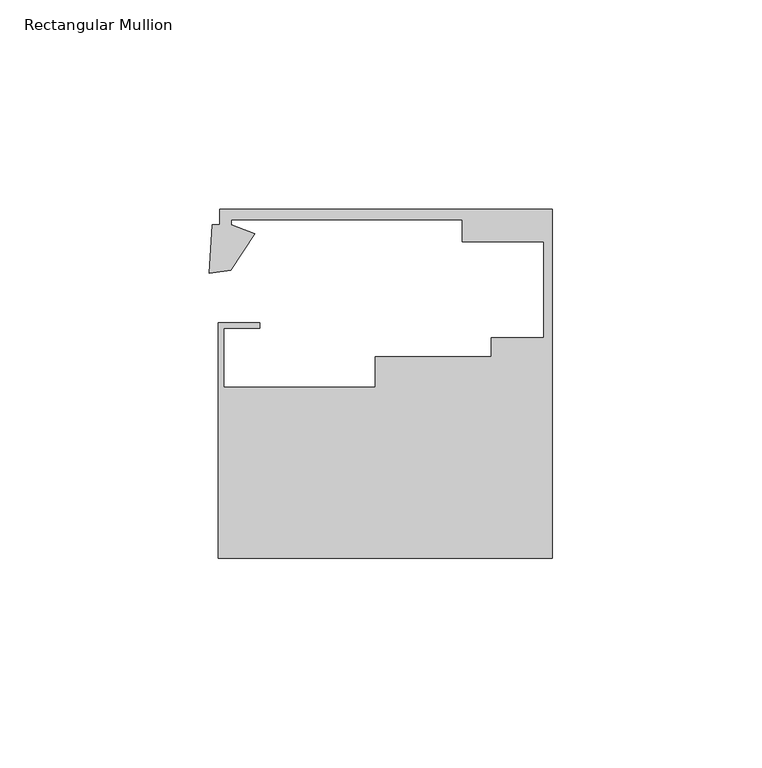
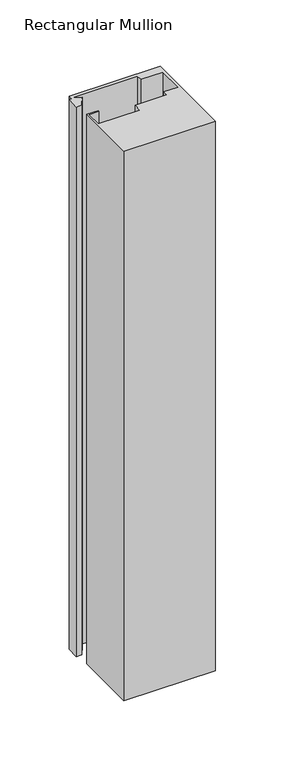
"""IFC4 building model written with IfcOpenShell, lengths in millimetres: member geometry, Rectangular Mullion : Danpal_NM_End-Mullion_B1."""

from ifc_helpers import new_model, si_unit, frame, origin, place, context, project, spatial, polyline, outline, extrude, source, transform, mapped, element, save


def rectangular_mullion_5309cee7(model_context):
    return source(origin(), model_context, "Body", "SweptSolid", [
        extrude(outline(polyline([(0.0, -68.4940825), (-79.7784606, -68.4940825), (-79.7784606, -12.280939), (-69.8282946, -12.280939), (-69.8282946, -13.5916994), (-78.4582695, -13.5916994), (-78.4582695, -27.6399085), (-42.2578709, -27.6399085), (-42.2684147, -20.3894746), (-14.6000003, -20.3492381), (-14.6000003, -15.7940824), (-2.0000001, -15.7940824), (-2.0000001, 7.1181946), (-21.5478166, 7.1181946), (-21.5478166, 12.3181946), (-76.6478166, 12.3181946), (-76.6478166, 11.1168176), (-71.0577359, 9.0180613), (-76.7540801, 0.319325), (-81.8779002, -0.484903), (-81.1597999, 11.1413992), (-79.3474874, 11.1413992), (-79.3474874, 14.8003189), (0.0, 14.8051514), (0.0, -68.4940825)])), frame((0.0, 0.0, -506.3852426), z_axis=(0.0, 0.0, 1.0), x_axis=(1.0, 0.0, 0.0)), (0.0, 0.0, 1.0), 506.3852426),
    ])


if __name__ == "__main__":
    model = new_model("IFC4")
    model_context = context("Model", 3, world=origin())
    ifc_project = project(units=[si_unit("LENGTHUNIT", "METRE", prefix="MILLI")], contexts=[model_context])
    site = spatial("IfcSite", under=ifc_project)
    building = spatial("IfcBuilding", under=site)
    placement = place(None, origin())
    rectangular_mullion_shape = rectangular_mullion_5309cee7(model_context)
    element("IfcMember", 1, ObjectType="Rectangular Mullion : Danpal_NM_End-Mullion_B1", at=placement, inside=building, context=model_context, shape_type="MappedRepresentation", body=[
        mapped(rectangular_mullion_shape, transform((0.0, 0.0, 0.0), x_axis=(1.0, 0.0, 0.0), y_axis=(0.0, 1.0, 0.0), z_axis=(0.0, 0.0, 1.0))),
    ])
    save(model, "model.ifc")
